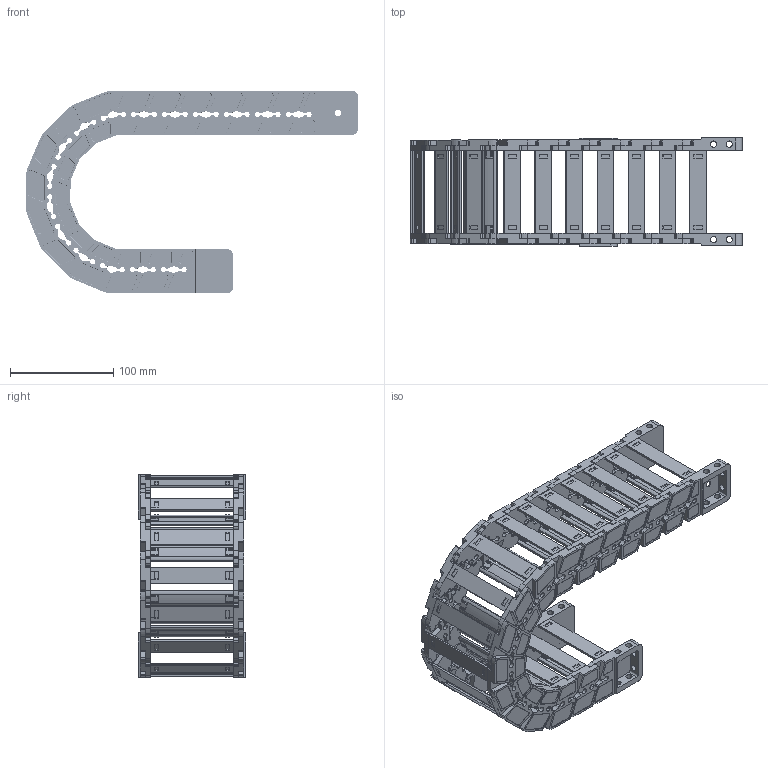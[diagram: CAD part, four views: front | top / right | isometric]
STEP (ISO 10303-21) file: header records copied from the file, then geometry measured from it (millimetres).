
FILE_DESCRIPTION((''),'2;1');
FILE_NAME('JY-35X80-R75_ASM','2025-01-05T19:07:52',('admin'),(''),'CREO PARAMETRIC BY PTC INC, 2021023','CREO PARAMETRIC BY PTC INC, 2021023','');
FILE_SCHEMA(('CONFIG_CONTROL_DESIGN'));
Length unit declared in the file: millimetre
Products named in the file (11): 35XL-L; YP; 35XL-R; ASM0001_ASM; 35-LTT-A-L; 35-LTT-A-R; 35XL-LTT-A_ASM; 35-LTT-B-L; 35-LTT-B-R; 35XL-LTT-B_ASM; JY-35X80-R75_ASM
Assembly tree (29 placements, depth 3):
  JY-35X80-R75_ASM
    ASM0001_ASM  x15
      35XL-L
      YP
      35XL-R
    35XL-LTT-A_ASM
      35-LTT-A-L
      YP  x2
      35-LTT-A-R
    35XL-LTT-B_ASM
      35-LTT-B-L
      YP  x2
      35-LTT-B-R
Bounding box: 321.72 x 104.5 x 196.34 mm (x, y, z)
Volume: 509490 mm3; surface area: 306818.5 mm2
Topology: 68 solids, 68 shells, 5536 faces, 16584 edges, 11192 vertices
Faces by surface type: plane 3130, cylinder 1830, cone 352, extrusion 128, bspline 96
Entity records: 27842 total; most frequent: CARTESIAN_POINT 6162, ORIENTED_EDGE 4640, DIRECTION 4353, EDGE_CURVE 2320, VERTEX_POINT 1568, AXIS2_PLACEMENT_3D 1468, VECTOR 1417, LINE 1401
